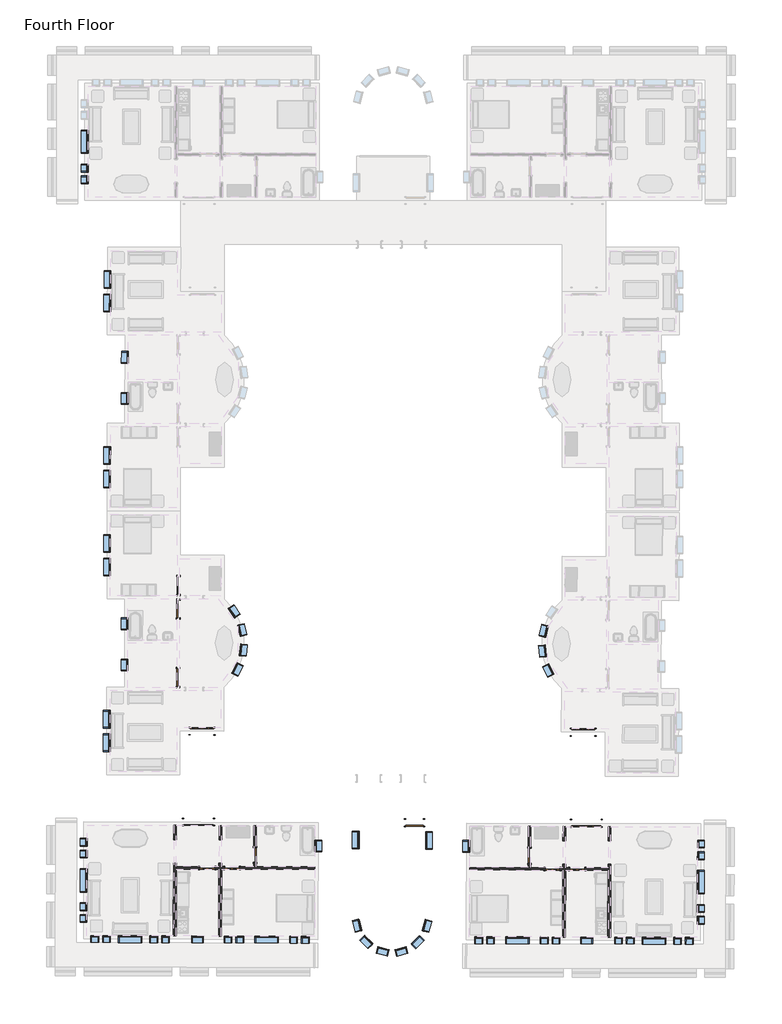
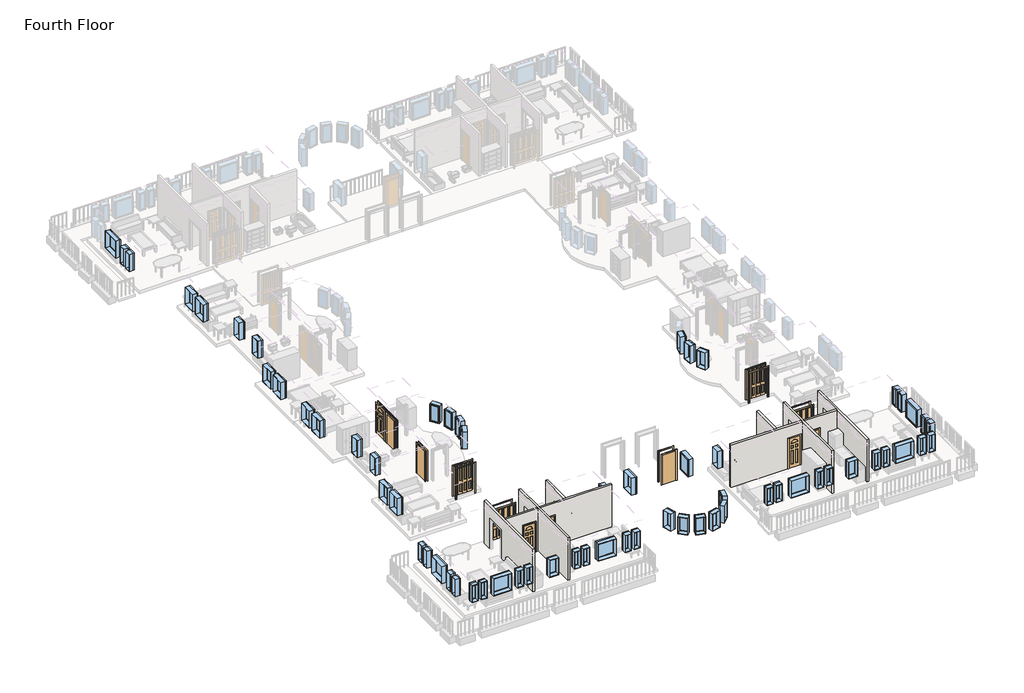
# One storey, part 1 of 8: 64 windows, 14 doors, 8 walls.
"""IFC4 building model written with IfcOpenShell, lengths in millimetres."""

from ifc_helpers import new_model, si_unit, frame, origin, place, context, project, spatial, polyline, outline, extrude, faceted_brep, transform, mapped, element, save
from components import m_bifold_4_panel_1220_x_2134mm_46e1cad3, m_bifold_4_panel_1220_x_2134mm_cde6dea2, m_bifold_4_panel_1525_x_2134mm_1ddae71f, m_bifold_4_panel_1525_x_2134mm_ac598c8b, m_single_decorative_2_0762_x_2134mm_0d0af7cb, m_single_decorative_2_0762_x_2134mm_2fe67c8e, m_single_decorative_2_0915_x_2134mm_0b11df3f, m_single_flush_0762_x_2134mm_0d89e411, m_single_flush_0762_x_2134mm_a28375c7, m_single_flush_0915_x_2134mm_ab9b6334, m_single_flush_0915_x_2134mm_08e0827a, m_single_flush_0915_x_2134mm_70678a7c, m_fixed_0406_x_1220mm_57fee329, m_fixed_0406_x_1220mm_85c28f40, m_fixed_0610_x_1220mm_2c28ef1d, m_fixed_0610_x_1220mm_1ea27827, m_fixed_0915_x_1220mm_bde29121, m_fixed_0915_x_1220mm_2a2509e7, m_fixed_1220_x_1220mm_e08ff7af, m_fixed_1220_x_1220mm_8f5f8ad3

model = new_model("IFC4")

# Units and contexts
model_context = context("Model", 3, world=origin())
ifc_project = project(units=[si_unit("LENGTHUNIT", "METRE", prefix="MILLI")], contexts=[model_context])

# Site, building, storey
site = spatial("IfcSite", under=ifc_project)
building = spatial("IfcBuilding", under=site)
storey = spatial("IfcBuildingStorey", under=building, Name="Fourth Floor", Elevation=9144.0)

# Doors
placement = place(None, origin())
m_bifold_4_panel_1220_x_2134mm_shape = m_bifold_4_panel_1220_x_2134mm_46e1cad3(model_context)
element("IfcDoor", 1, ObjectType="M_Bifold-4 Panel : 1220 x 2134mm", at=placement, inside=storey, context=model_context, shape_type="MappedRepresentation", body=[
    mapped(m_bifold_4_panel_1220_x_2134mm_shape, transform((-9084.0085376, -31158.0124606, 9144.0), x_axis=(0.9999905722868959, -0.0043422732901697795, 0.0), y_axis=(0.0043422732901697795, 0.9999905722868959, 0.0), z_axis=(0.0, 0.0, 1.0))),
])
m_bifold_4_panel_1220_x_2134mm_2_shape = m_bifold_4_panel_1220_x_2134mm_cde6dea2(model_context)
element("IfcDoor", 2, ObjectType="M_Bifold-4 Panel : 1220 x 2134mm", at=placement, inside=storey, context=model_context, shape_type="MappedRepresentation", body=[
    mapped(m_bifold_4_panel_1220_x_2134mm_2_shape, transform((-28896.4341492, -31100.6581424, 9144.0), x_axis=(-0.9999989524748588, 0.0014474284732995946, 0.0), y_axis=(-0.0014474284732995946, -0.9999989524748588, 0.0), z_axis=(0.0, 0.0, 1.0))),
])
m_bifold_4_panel_1525_x_2134mm_shape = m_bifold_4_panel_1525_x_2134mm_1ddae71f(model_context)
element("IfcDoor", 3, ObjectType="M_Bifold-4 Panel : 1525 x 2134mm", at=placement, inside=storey, context=model_context, shape_type="MappedRepresentation", body=[
    mapped(m_bifold_4_panel_1525_x_2134mm_shape, transform((-29084.8596063, -35825.933405, 9144.0), x_axis=(-0.9999958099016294, 0.0028948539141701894, 0.0), y_axis=(-0.0028948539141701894, -0.9999958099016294, 0.0), z_axis=(0.0, 0.0, 1.0))),
])
m_bifold_4_panel_1525_x_2134mm_2_shape = m_bifold_4_panel_1525_x_2134mm_ac598c8b(model_context)
element("IfcDoor", 4, ObjectType="M_Bifold-4 Panel : 1525 x 2134mm", at=placement, inside=storey, context=model_context, shape_type="MappedRepresentation", body=[
    mapped(m_bifold_4_panel_1525_x_2134mm_2_shape, transform((-8922.9440871, -35884.2994497, 9144.0), x_axis=(0.9999958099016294, -0.0028948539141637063, 0.0), y_axis=(0.0028948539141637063, 0.9999958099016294, 0.0), z_axis=(0.0, 0.0, 1.0))),
])
m_single_decorative_2_0762_x_2134mm_shape = m_single_decorative_2_0762_x_2134mm_0d0af7cb(model_context)
element("IfcDoor", 5, ObjectType="M_Single-Decorative 2 : 0762 x 2134mm", at=placement, inside=storey, context=model_context, shape_type="MappedRepresentation", body=[
    mapped(m_single_decorative_2_0762_x_2134mm_shape, transform((-10682.8170859, -38255.9648119, 9144.0), x_axis=(0.9999958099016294, -0.002894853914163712, 0.0), y_axis=(0.002894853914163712, 0.9999958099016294, 0.0), z_axis=(0.0, 0.0, 1.0))),
])
element("IfcDoor", 6, ObjectType="M_Single-Decorative 2 : 0762 x 2134mm", at=placement, inside=storey, context=model_context, shape_type="MappedRepresentation", body=[
    mapped(m_single_decorative_2_0762_x_2134mm_shape, transform((-28625.491904, -38204.0231719, 9144.0), x_axis=(0.9999958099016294, -0.0028948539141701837, 0.0), y_axis=(0.0028948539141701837, 0.9999958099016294, 0.0), z_axis=(0.0, 0.0, 1.0))),
])
m_single_decorative_2_0762_x_2134mm_2_shape = m_single_decorative_2_0762_x_2134mm_2fe67c8e(model_context)
element("IfcDoor", 7, ObjectType="M_Single-Decorative 2 : 0762 x 2134mm", at=placement, inside=storey, context=model_context, shape_type="MappedRepresentation", body=[
    mapped(m_single_decorative_2_0762_x_2134mm_2_shape, transform((-9396.0724775, -38259.6897652, 9144.0), x_axis=(-0.9999958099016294, 0.002894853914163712, 0.0), y_axis=(-0.002894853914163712, -0.9999958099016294, 0.0), z_axis=(0.0, 0.0, 1.0))),
])
element("IfcDoor", 8, ObjectType="M_Single-Decorative 2 : 0762 x 2134mm", at=placement, inside=storey, context=model_context, shape_type="MappedRepresentation", body=[
    mapped(m_single_decorative_2_0762_x_2134mm_2_shape, transform((-27338.7472956, -38207.7481251, 9144.0), x_axis=(-0.9999958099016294, 0.0028948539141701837, 0.0), y_axis=(-0.0028948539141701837, -0.9999958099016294, 0.0), z_axis=(0.0, 0.0, 1.0))),
])
m_single_decorative_2_0915_x_2134mm_shape = m_single_decorative_2_0915_x_2134mm_0b11df3f(model_context)
element("IfcDoor", 9, ObjectType="M_Single-Decorative 2 : 0915 x 2134mm", at=placement, inside=storey, context=model_context, shape_type="MappedRepresentation", body=[
    mapped(m_single_decorative_2_0915_x_2134mm_shape, transform((-30128.4841363, -23534.6169126, 9144.0), x_axis=(-0.0014474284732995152, -0.9999989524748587, 0.0), y_axis=(0.9999989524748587, -0.0014474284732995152, 0.0), z_axis=(0.0, 0.0, 1.0))),
])
m_single_flush_0762_x_2134mm_shape = m_single_flush_0762_x_2134mm_0d89e411(model_context)
element("IfcDoor", 10, ObjectType="M_Single-Flush : 0762 x 2134mm", at=placement, inside=storey, context=model_context, shape_type="MappedRepresentation", body=[
    mapped(m_single_flush_0762_x_2134mm_shape, transform((-26146.2902967, -37533.4472886, 9144.0), x_axis=(-0.0028948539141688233, -0.9999958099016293, 0.0), y_axis=(0.9999958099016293, -0.0028948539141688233, 0.0), z_axis=(0.0, 0.0, 1.0))),
])
m_single_flush_0762_x_2134mm_2_shape = m_single_flush_0762_x_2134mm_a28375c7(model_context)
element("IfcDoor", 11, ObjectType="M_Single-Flush : 0762 x 2134mm", at=placement, inside=storey, context=model_context, shape_type="MappedRepresentation", body=[
    mapped(m_single_flush_0762_x_2134mm_2_shape, transform((-11871.3501103, -37574.7713282, 9144.0), x_axis=(-0.002894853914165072, -0.9999958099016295, 0.0), y_axis=(0.9999958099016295, -0.002894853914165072, 0.0), z_axis=(0.0, 0.0, 1.0))),
])
m_single_flush_0915_x_2134mm_shape = m_single_flush_0915_x_2134mm_ab9b6334(model_context)
element("IfcDoor", 12, ObjectType="M_Single-Flush : 0915 x 2134mm", at=placement, inside=storey, context=model_context, shape_type="MappedRepresentation", body=[
    mapped(m_single_flush_0915_x_2134mm_shape, transform((-30135.3858371, -28302.8619177, 9144.0), x_axis=(-0.0014474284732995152, -0.9999989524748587, 0.0), y_axis=(0.9999989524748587, -0.0014474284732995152, 0.0), z_axis=(0.0, 0.0, 1.0))),
])
m_single_flush_0915_x_2134mm_2_shape = m_single_flush_0915_x_2134mm_08e0827a(model_context)
element("IfcDoor", 13, ObjectType="M_Single-Flush : 0915 x 2134mm", at=placement, inside=storey, context=model_context, shape_type="MappedRepresentation", body=[
    mapped(m_single_flush_0915_x_2134mm_2_shape, transform((-30130.249999, -24754.6156346, 9144.0), x_axis=(0.0014474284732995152, 0.9999989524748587, 0.0), y_axis=(-0.9999989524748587, 0.0014474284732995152, 0.0), z_axis=(0.0, 0.0, 1.0))),
])
m_single_flush_0915_x_2134mm_3_shape = m_single_flush_0915_x_2134mm_70678a7c(model_context)
element("IfcDoor", 14, ObjectType="M_Single-Flush : 0915 x 2134mm", at=placement, inside=storey, context=model_context, shape_type="MappedRepresentation", body=[
    mapped(m_single_flush_0915_x_2134mm_3_shape, transform((-17860.906636, -35858.4252454, 9144.0), x_axis=(0.9999958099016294, -0.0028948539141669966, 0.0), y_axis=(0.0028948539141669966, 0.9999958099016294, 0.0), z_axis=(0.0, 0.0, 1.0))),
])

# Walls
element("IfcWall", 15, ObjectType="Interior - 135mm Partition (2-hr)", at=placement, inside=storey, context=model_context, shape_type="Brep", body=[
    faceted_brep([(-7661.5898742, -41808.9757108, 9144.0), (-7650.6270624, -38021.9915787, 9144.0), (-7650.6270624, -38021.9915787, 11278.0), (-7647.0953406, -36801.9966906, 11278.0), (-7647.0953406, -36801.9966906, 9144.0), (-7644.9560436, -36062.9997871, 9144.0), (-7644.9560436, -36062.9997871, 12192.0), (-7661.5898742, -41808.9757108, 12192.0), (-7786.1264946, -38021.599326, 11278.0), (-7786.1264946, -38021.599326, 9144.0), (-7786.6330941, -38196.5985928, 9144.0), (-7787.0253468, -38332.098025, 9144.0), (-7797.0893064, -41808.5834581, 9144.0), (-7797.0893064, -41808.5834581, 12192.0), (-7787.0253468, -38332.098025, 12192.0), (-7786.6330941, -38196.5985928, 12192.0), (-7780.4554758, -36062.6075344, 12192.0), (-7780.4554758, -36062.6075344, 9144.0), (-7782.5947729, -36801.6044379, 9144.0), (-7782.5947729, -36801.6044379, 11278.0)], [[[0, 1, 2, 3, 4, 5, 6, 7]], [[8, 9, 10, 11, 12, 13, 14, 15, 16, 17, 18, 19]], [[18, 17, 5, 4]], [[12, 11, 10, 9, 1, 0]], [[7, 6, 16, 15, 14, 13]], [[4, 3, 19, 18]], [[2, 1, 9, 8]], [[3, 2, 8, 19]], [[6, 5, 17, 16]], [[0, 7, 13, 12]]]),
])
element("IfcWall", 16, ObjectType="Interior - 135mm Partition (2-hr)", at=placement, inside=storey, context=model_context, shape_type="Brep", body=[
    faceted_brep([(-10000.8354782, -36795.1829282, 11278.0), (-10000.8354782, -36795.1829282, 9144.0), (-9998.6961811, -36056.1860247, 9144.0), (-9998.6961811, -36056.1860247, 12192.0), (-10004.8737994, -38190.1770831, 12192.0), (-10005.2660521, -38325.6765153, 12192.0), (-10015.3300117, -41802.1619484, 12192.0), (-10015.3300117, -41802.1619484, 9144.0), (-10005.2660521, -38325.6765153, 9144.0), (-10004.8737994, -38190.1770831, 9144.0), (-10004.3671999, -38015.1778163, 9144.0), (-10004.3671999, -38015.1778163, 11278.0), (-10134.1956134, -36055.793772, 9144.0), (-10136.3349104, -36794.7906755, 9144.0), (-10136.3349104, -36794.7906755, 11278.0), (-10139.8666322, -38014.7855636, 11278.0), (-10139.8666322, -38014.7855636, 9144.0), (-10140.3732316, -38189.7848304, 9144.0), (-10140.7654843, -38325.2842626, 9144.0), (-10150.829444, -41801.7696957, 9144.0), (-10150.829444, -41801.7696957, 12192.0), (-10140.7654843, -38325.2842626, 12192.0), (-10140.3732316, -38189.7848304, 12192.0), (-10134.1956134, -36055.793772, 12192.0)], [[[0, 1, 2, 3, 4, 5, 6, 7, 8, 9, 10, 11]], [[12, 13, 14, 15, 16, 17, 18, 19, 20, 21, 22, 23]], [[2, 1, 13, 12]], [[10, 9, 8, 7, 19, 18, 17, 16]], [[6, 5, 4, 3, 23, 22, 21, 20]], [[16, 15, 11, 10]], [[14, 13, 1, 0]], [[15, 14, 0, 11]], [[3, 2, 12, 23]], [[7, 6, 20, 19]]]),
])
element("IfcWall", 17, ObjectType="Interior - 135mm Partition (2-hr)", at=placement, inside=storey, context=model_context, shape_type="Brep", body=[
    faceted_brep([(-9777.2670074, -38326.336542, 9144.0), (-9777.2670074, -38326.336542, 11278.0), (-9015.2702003, -38328.5424207, 11278.0), (-9015.2702003, -38328.5424207, 9144.0), (-7787.0253468, -38332.098025, 9144.0), (-7787.0253468, -38332.098025, 12192.0), (-10005.2660521, -38325.6765153, 12192.0), (-10005.2660521, -38325.6765153, 9144.0), (-9776.8747547, -38190.8371097, 11278.0), (-9776.8747547, -38190.8371097, 9144.0), (-10004.8737994, -38190.1770831, 9144.0), (-10004.8737994, -38190.1770831, 12192.0), (-7786.6330941, -38196.5985928, 12192.0), (-7786.6330941, -38196.5985928, 9144.0), (-9014.8779476, -38193.0429884, 9144.0), (-9014.8779476, -38193.0429884, 11278.0)], [[[0, 1, 2, 3, 4, 5, 6, 7]], [[8, 9, 10, 11, 12, 13, 14, 15]], [[9, 0, 7, 10]], [[3, 14, 13, 4]], [[5, 12, 11, 6]], [[1, 0, 9, 8]], [[2, 1, 8, 15]], [[3, 2, 15, 14]], [[5, 4, 13, 12]], [[7, 6, 11, 10]]]),
    faceted_brep([(-10302.0148087, -38324.8174674, 11278.0), (-10302.0148087, -38324.8174674, 9144.0), (-10140.7654843, -38325.2842626, 9144.0), (-10140.7654843, -38325.2842626, 12192.0), (-14989.2451686, -38311.2485634, 12192.0), (-14989.2451686, -38311.2485634, 9144.0), (-11064.0116158, -38322.6115887, 9144.0), (-11064.0116158, -38322.6115887, 11278.0), (-10301.622556, -38189.3180352, 9144.0), (-10301.622556, -38189.3180352, 11278.0), (-11063.6193631, -38187.1121565, 11278.0), (-11063.6193631, -38187.1121565, 9144.0), (-11805.3662551, -38184.9648986, 9144.0), (-11940.8656874, -38184.5726459, 9144.0), (-14988.8529159, -38175.7491311, 9144.0), (-14988.8529159, -38175.7491311, 12192.0), (-11940.8656874, -38184.5726459, 12192.0), (-11805.3662551, -38184.9648986, 12192.0), (-10140.3732316, -38189.7848304, 12192.0), (-10140.3732316, -38189.7848304, 9144.0)], [[[0, 1, 2, 3, 4, 5, 6, 7]], [[8, 9, 10, 11, 12, 13, 14, 15, 16, 17, 18, 19]], [[1, 8, 19, 2]], [[11, 6, 5, 14, 13, 12]], [[15, 4, 3, 18, 17, 16]], [[9, 8, 1, 0]], [[10, 9, 0, 7]], [[11, 10, 7, 6]], [[5, 4, 15, 14]], [[3, 2, 19, 18]]]),
])
element("IfcWall", 18, ObjectType="Interior - 135mm Partition (2-hr)", at=placement, inside=storey, context=model_context, shape_type="SweptSolid", body=[
    extrude(outline(polyline([(-2309.0, 0.0), (-2080.0, 0.0), (-2080.0, -2134.0), (-1318.0, -2134.0), (-1318.0, 0.0), (-175.0000001, 0.0), (-175.0000001, -3048.0), (-2309.0, -3048.0), (-2309.0, 0.0)])), frame((-11798.6820374, -35875.9745735, 9144.0), z_axis=(-0.9999958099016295, 0.002894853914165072, 0.0), x_axis=(0.002894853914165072, 0.9999958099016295, 0.0)), (0.0, 0.0, 1.0), 135.5),
])
element("IfcWall", 19, ObjectType="Interior - 135mm Partition (2-hr)", at=placement, inside=storey, context=model_context, shape_type="Brep", body=[
    faceted_brep([(-30244.9952471, -41743.5997775, 9144.0), (-30234.9312874, -38267.1143443, 9144.0), (-30234.5390347, -38131.6149121, 9144.0), (-30234.0324353, -37956.6156454, 9144.0), (-30234.0324353, -37956.6156454, 11278.0), (-30230.5007135, -36736.6207573, 11278.0), (-30230.5007135, -36736.6207573, 9144.0), (-30228.3614165, -35997.6238538, 9144.0), (-30228.3614165, -35997.6238538, 12192.0), (-30234.5390347, -38131.6149121, 12192.0), (-30234.9312874, -38267.1143443, 12192.0), (-30244.9952471, -41743.5997775, 12192.0), (-30369.5318675, -37956.2233926, 11278.0), (-30369.5318675, -37956.2233926, 9144.0), (-30380.4946793, -41743.2075247, 9144.0), (-30380.4946793, -41743.2075247, 12192.0), (-30363.8608487, -35997.2316011, 12192.0), (-30363.8608487, -35997.2316011, 9144.0), (-30366.0001458, -36736.2285046, 9144.0), (-30366.0001458, -36736.2285046, 11278.0)], [[[0, 1, 2, 3, 4, 5, 6, 7, 8, 9, 10, 11]], [[12, 13, 14, 15, 16, 17, 18, 19]], [[18, 17, 7, 6]], [[14, 13, 3, 2, 1, 0]], [[11, 10, 9, 8, 16, 15]], [[6, 5, 19, 18]], [[4, 3, 13, 12]], [[5, 4, 12, 19]], [[0, 11, 15, 14]], [[8, 7, 17, 16]]]),
])
element("IfcWall", 20, ObjectType="Interior - 135mm Partition (2-hr)", at=placement, inside=storey, context=model_context, shape_type="Brep", body=[
    faceted_brep([(-27876.760576, -36743.4345197, 11278.0), (-27876.760576, -36743.4345197, 9144.0), (-27874.6212789, -36004.4376162, 9144.0), (-27874.6212789, -36004.4376162, 12192.0), (-27880.7988972, -38138.4286745, 12192.0), (-27881.1911499, -38273.9281067, 12192.0), (-27891.2551095, -41750.4135399, 12192.0), (-27891.2551095, -41750.4135399, 9144.0), (-27881.1911499, -38273.9281067, 9144.0), (-27880.7988972, -38138.4286745, 9144.0), (-27880.2922977, -37963.4294078, 9144.0), (-27880.2922977, -37963.4294078, 11278.0), (-28010.1207112, -36004.0453635, 9144.0), (-28012.2600082, -36743.042267, 9144.0), (-28012.2600082, -36743.042267, 11278.0), (-28015.79173, -37963.037155, 11278.0), (-28015.79173, -37963.037155, 9144.0), (-28016.2983294, -38138.0364218, 9144.0), (-28016.6905821, -38273.535854, 9144.0), (-28026.7545418, -41750.0212871, 9144.0), (-28026.7545418, -41750.0212871, 12192.0), (-28016.6905821, -38273.535854, 12192.0), (-28016.2983294, -38138.0364218, 12192.0), (-28010.1207112, -36004.0453635, 12192.0)], [[[0, 1, 2, 3, 4, 5, 6, 7, 8, 9, 10, 11]], [[12, 13, 14, 15, 16, 17, 18, 19, 20, 21, 22, 23]], [[2, 1, 13, 12]], [[10, 9, 8, 7, 19, 18, 17, 16]], [[6, 5, 4, 3, 23, 22, 21, 20]], [[16, 15, 11, 10]], [[14, 13, 1, 0]], [[15, 14, 0, 11]], [[7, 6, 20, 19]], [[3, 2, 12, 23]]]),
])
element("IfcWall", 21, ObjectType="Interior - 135mm Partition (2-hr)", at=placement, inside=storey, context=model_context, shape_type="Brep", body=[
    faceted_brep([(-30234.5390347, -38131.6149121, 9144.0), (-30234.5390347, -38131.6149121, 12192.0), (-28016.2983294, -38138.0364218, 12192.0), (-28016.2983294, -38138.0364218, 9144.0), (-28244.2973741, -38137.3763951, 9144.0), (-28244.2973741, -38137.3763951, 11278.0), (-29006.2941812, -38135.1705164, 11278.0), (-29006.2941812, -38135.1705164, 9144.0), (-30234.9312874, -38267.1143443, 12192.0), (-30234.9312874, -38267.1143443, 9144.0), (-29006.6864339, -38270.6699486, 9144.0), (-29006.6864339, -38270.6699486, 11278.0), (-28244.6896268, -38272.8758273, 11278.0), (-28244.6896268, -38272.8758273, 9144.0), (-28016.6905821, -38273.535854, 9144.0), (-28016.6905821, -38273.535854, 12192.0)], [[[0, 1, 2, 3, 4, 5, 6, 7]], [[8, 9, 10, 11, 12, 13, 14, 15]], [[9, 0, 7, 10]], [[13, 4, 3, 14]], [[1, 8, 15, 2]], [[1, 0, 9, 8]], [[3, 2, 15, 14]], [[5, 4, 13, 12]], [[6, 5, 12, 11]], [[7, 6, 11, 10]]]),
    faceted_brep([(-27719.5495728, -38138.8954697, 11278.0), (-27719.5495728, -38138.8954697, 9144.0), (-27880.7988972, -38138.4286745, 9144.0), (-27880.7988972, -38138.4286745, 12192.0), (-26215.8058737, -38143.2486063, 12192.0), (-26080.3064415, -38143.640859, 12192.0), (-23032.3192129, -38152.4643737, 12192.0), (-23032.3192129, -38152.4643737, 9144.0), (-26080.3064415, -38143.640859, 9144.0), (-26215.8058737, -38143.2486063, 9144.0), (-26957.5527657, -38141.1013484, 9144.0), (-26957.5527657, -38141.1013484, 11278.0), (-27719.9418255, -38274.3949019, 9144.0), (-27719.9418255, -38274.3949019, 11278.0), (-26957.9450184, -38276.6007806, 11278.0), (-26957.9450184, -38276.6007806, 9144.0), (-23032.7114656, -38287.9638059, 9144.0), (-23032.7114656, -38287.9638059, 12192.0), (-27881.1911499, -38273.9281067, 12192.0), (-27881.1911499, -38273.9281067, 9144.0)], [[[0, 1, 2, 3, 4, 5, 6, 7, 8, 9, 10, 11]], [[12, 13, 14, 15, 16, 17, 18, 19]], [[1, 12, 19, 2]], [[15, 10, 9, 8, 7, 16]], [[17, 6, 5, 4, 3, 18]], [[3, 2, 19, 18]], [[13, 12, 1, 0]], [[14, 13, 0, 11]], [[15, 14, 11, 10]], [[7, 6, 17, 16]]]),
])
element("IfcWall", 22, ObjectType="Interior - 135mm Partition (2-hr)", at=placement, inside=storey, context=model_context, shape_type="SweptSolid", body=[
    extrude(outline(polyline([(-2309.0, 0.0), (-2080.0, 0.0), (-2080.0, -2134.0), (-1317.9999999, -2134.0), (-1317.9999999, 0.0), (-175.0, 0.0), (-175.0, -3048.0), (-2309.0, -3048.0), (-2309.0, 0.0)])), frame((-26073.6222238, -35834.6505339, 9144.0), z_axis=(-0.9999958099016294, 0.0028948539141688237, 0.0), x_axis=(0.0028948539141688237, 0.9999958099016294, 0.0)), (0.0, 0.0, 1.0), 135.5),
])

# Windows
m_fixed_0406_x_1220mm_shape = m_fixed_0406_x_1220mm_57fee329(model_context)
element("IfcWindow", 23, ObjectType="M_Fixed : 0406 x 1220mm", at=placement, inside=storey, context=model_context, shape_type="MappedRepresentation", body=[
    mapped(m_fixed_0406_x_1220mm_shape, transform((-35008.8416203, -2447.8811614, 9144.0), x_axis=(0.0, -1.0, 0.0), y_axis=(1.0, 0.0, 0.0), z_axis=(0.0, 0.0, 1.0))),
])
element("IfcWindow", 24, ObjectType="M_Fixed : 0406 x 1220mm", at=placement, inside=storey, context=model_context, shape_type="MappedRepresentation", body=[
    mapped(m_fixed_0406_x_1220mm_shape, transform((-35008.8416203, -1837.8811614, 9144.0), x_axis=(0.0, -1.0, 0.0), y_axis=(1.0, 0.0, 0.0), z_axis=(0.0, 0.0, 1.0))),
])
element("IfcWindow", 25, ObjectType="M_Fixed : 0406 x 1220mm", at=placement, inside=storey, context=model_context, shape_type="MappedRepresentation", body=[
    mapped(m_fixed_0406_x_1220mm_shape, transform((-10500.8722121, -41988.7571565, 9144.0), x_axis=(0.9999958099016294, -0.002894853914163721, 0.0), y_axis=(0.002894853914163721, 0.9999958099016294, 0.0), z_axis=(0.0, 0.0, 1.0))),
])
element("IfcWindow", 26, ObjectType="M_Fixed : 0406 x 1220mm", at=placement, inside=storey, context=model_context, shape_type="MappedRepresentation", body=[
    mapped(m_fixed_0406_x_1220mm_shape, transform((-11110.8696561, -41986.9912956, 9144.0), x_axis=(0.9999958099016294, -0.002894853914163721, 0.0), y_axis=(0.002894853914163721, 0.9999958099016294, 0.0), z_axis=(0.0, 0.0, 1.0))),
])
element("IfcWindow", 27, ObjectType="M_Fixed : 0406 x 1220mm", at=placement, inside=storey, context=model_context, shape_type="MappedRepresentation", body=[
    mapped(m_fixed_0406_x_1220mm_shape, transform((-3572.1512442, -42008.8148756, 9144.0), x_axis=(0.9999958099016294, -0.002894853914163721, 0.0), y_axis=(0.002894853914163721, 0.9999958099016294, 0.0), z_axis=(0.0, 0.0, 1.0))),
])
element("IfcWindow", 28, ObjectType="M_Fixed : 0406 x 1220mm", at=placement, inside=storey, context=model_context, shape_type="MappedRepresentation", body=[
    mapped(m_fixed_0406_x_1220mm_shape, transform((-4182.1486882, -42007.0490147, 9144.0), x_axis=(0.9999958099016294, -0.002894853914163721, 0.0), y_axis=(0.002894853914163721, 0.9999958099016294, 0.0), z_axis=(0.0, 0.0, 1.0))),
])
element("IfcWindow", 29, ObjectType="M_Fixed : 0406 x 1220mm", at=placement, inside=storey, context=model_context, shape_type="MappedRepresentation", body=[
    mapped(m_fixed_0406_x_1220mm_shape, transform((-2955.3079143, -36968.5794278, 9144.0), x_axis=(0.0028948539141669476, 0.9999958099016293, 0.0), y_axis=(-0.9999958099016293, 0.0028948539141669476, 0.0), z_axis=(0.0, 0.0, 1.0))),
])
element("IfcWindow", 30, ObjectType="M_Fixed : 0406 x 1220mm", at=placement, inside=storey, context=model_context, shape_type="MappedRepresentation", body=[
    mapped(m_fixed_0406_x_1220mm_shape, transform((-2957.0737751, -37578.5768719, 9144.0), x_axis=(0.0028948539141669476, 0.9999958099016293, 0.0), y_axis=(-0.9999958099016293, 0.0028948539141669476, 0.0), z_axis=(0.0, 0.0, 1.0))),
])
element("IfcWindow", 31, ObjectType="M_Fixed : 0406 x 1220mm", at=placement, inside=storey, context=model_context, shape_type="MappedRepresentation", body=[
    mapped(m_fixed_0406_x_1220mm_shape, transform((-23528.3176256, -41951.0444472, 9144.0), x_axis=(0.9999958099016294, -0.0028948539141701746, 0.0), y_axis=(0.0028948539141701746, 0.9999958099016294, 0.0), z_axis=(0.0, 0.0, 1.0))),
])
element("IfcWindow", 32, ObjectType="M_Fixed : 0406 x 1220mm", at=placement, inside=storey, context=model_context, shape_type="MappedRepresentation", body=[
    mapped(m_fixed_0406_x_1220mm_shape, transform((-24138.3150696, -41949.2785863, 9144.0), x_axis=(0.9999958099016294, -0.0028948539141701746, 0.0), y_axis=(0.0028948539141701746, 0.9999958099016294, 0.0), z_axis=(0.0, 0.0, 1.0))),
])
element("IfcWindow", 33, ObjectType="M_Fixed : 0406 x 1220mm", at=placement, inside=storey, context=model_context, shape_type="MappedRepresentation", body=[
    mapped(m_fixed_0406_x_1220mm_shape, transform((-30795.2871761, -41930.0075438, 9144.0), x_axis=(0.9999958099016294, -0.0028948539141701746, 0.0), y_axis=(0.0028948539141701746, 0.9999958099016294, 0.0), z_axis=(0.0, 0.0, 1.0))),
])
element("IfcWindow", 34, ObjectType="M_Fixed : 0406 x 1220mm", at=placement, inside=storey, context=model_context, shape_type="MappedRepresentation", body=[
    mapped(m_fixed_0406_x_1220mm_shape, transform((-31405.2846201, -41928.2416829, 9144.0), x_axis=(0.9999958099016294, -0.0028948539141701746, 0.0), y_axis=(0.0028948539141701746, 0.9999958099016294, 0.0), z_axis=(0.0, 0.0, 1.0))),
])
element("IfcWindow", 35, ObjectType="M_Fixed : 0406 x 1220mm", at=placement, inside=storey, context=model_context, shape_type="MappedRepresentation", body=[
    mapped(m_fixed_0406_x_1220mm_shape, transform((-35070.1428086, -40837.627884, 9144.0), x_axis=(-0.002894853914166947, -0.9999958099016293, 0.0), y_axis=(0.9999958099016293, -0.002894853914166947, 0.0), z_axis=(0.0, 0.0, 1.0))),
])
element("IfcWindow", 36, ObjectType="M_Fixed : 0406 x 1220mm", at=placement, inside=storey, context=model_context, shape_type="MappedRepresentation", body=[
    mapped(m_fixed_0406_x_1220mm_shape, transform((-35068.3769478, -40227.63044, 9144.0), x_axis=(-0.002894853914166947, -0.9999958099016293, 0.0), y_axis=(0.9999958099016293, -0.002894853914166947, 0.0), z_axis=(0.0, 0.0, 1.0))),
])
m_fixed_0406_x_1220mm_2_shape = m_fixed_0406_x_1220mm_85c28f40(model_context)
element("IfcWindow", 37, ObjectType="M_Fixed : 0406 x 1220mm", at=placement, inside=storey, context=model_context, shape_type="MappedRepresentation", body=[
    mapped(m_fixed_0406_x_1220mm_2_shape, transform((-14514.855393, -41977.1372129, 9144.0), x_axis=(-0.9999958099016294, 0.002894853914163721, 0.0), y_axis=(-0.002894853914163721, -0.9999958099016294, 0.0), z_axis=(0.0, 0.0, 1.0))),
])
element("IfcWindow", 38, ObjectType="M_Fixed : 0406 x 1220mm", at=placement, inside=storey, context=model_context, shape_type="MappedRepresentation", body=[
    mapped(m_fixed_0406_x_1220mm_2_shape, transform((-13904.857949, -41978.9030738, 9144.0), x_axis=(-0.9999958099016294, 0.002894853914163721, 0.0), y_axis=(-0.002894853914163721, -0.9999958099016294, 0.0), z_axis=(0.0, 0.0, 1.0))),
])
element("IfcWindow", 39, ObjectType="M_Fixed : 0406 x 1220mm", at=placement, inside=storey, context=model_context, shape_type="MappedRepresentation", body=[
    mapped(m_fixed_0406_x_1220mm_2_shape, transform((-7247.8858424, -41998.1741163, 9144.0), x_axis=(-0.9999958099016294, 0.002894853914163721, 0.0), y_axis=(-0.002894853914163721, -0.9999958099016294, 0.0), z_axis=(0.0, 0.0, 1.0))),
])
element("IfcWindow", 40, ObjectType="M_Fixed : 0406 x 1220mm", at=placement, inside=storey, context=model_context, shape_type="MappedRepresentation", body=[
    mapped(m_fixed_0406_x_1220mm_2_shape, transform((-6637.8883984, -41999.9399772, 9144.0), x_axis=(-0.9999958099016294, 0.002894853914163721, 0.0), y_axis=(-0.002894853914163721, -0.9999958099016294, 0.0), z_axis=(0.0, 0.0, 1.0))),
])
element("IfcWindow", 41, ObjectType="M_Fixed : 0406 x 1220mm", at=placement, inside=storey, context=model_context, shape_type="MappedRepresentation", body=[
    mapped(m_fixed_0406_x_1220mm_2_shape, transform((-2966.7773255, -40930.5628267, 9144.0), x_axis=(-0.0028948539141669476, -0.9999958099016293, 0.0), y_axis=(0.9999958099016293, -0.0028948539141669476, 0.0), z_axis=(0.0, 0.0, 1.0))),
])
element("IfcWindow", 42, ObjectType="M_Fixed : 0406 x 1220mm", at=placement, inside=storey, context=model_context, shape_type="MappedRepresentation", body=[
    mapped(m_fixed_0406_x_1220mm_2_shape, transform((-2965.0114646, -40320.5653826, 9144.0), x_axis=(-0.0028948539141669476, -0.9999958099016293, 0.0), y_axis=(0.9999958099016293, -0.0028948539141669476, 0.0), z_axis=(0.0, 0.0, 1.0))),
])
element("IfcWindow", 43, ObjectType="M_Fixed : 0406 x 1220mm", at=placement, inside=storey, context=model_context, shape_type="MappedRepresentation", body=[
    mapped(m_fixed_0406_x_1220mm_2_shape, transform((-27542.3008065, -41939.4245036, 9144.0), x_axis=(-0.9999958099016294, 0.0028948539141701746, 0.0), y_axis=(-0.0028948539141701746, -0.9999958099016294, 0.0), z_axis=(0.0, 0.0, 1.0))),
])
element("IfcWindow", 44, ObjectType="M_Fixed : 0406 x 1220mm", at=placement, inside=storey, context=model_context, shape_type="MappedRepresentation", body=[
    mapped(m_fixed_0406_x_1220mm_2_shape, transform((-26932.3033625, -41941.1903644, 9144.0), x_axis=(-0.9999958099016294, 0.0028948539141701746, 0.0), y_axis=(-0.0028948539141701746, -0.9999958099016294, 0.0), z_axis=(0.0, 0.0, 1.0))),
])
element("IfcWindow", 45, ObjectType="M_Fixed : 0406 x 1220mm", at=placement, inside=storey, context=model_context, shape_type="MappedRepresentation", body=[
    mapped(m_fixed_0406_x_1220mm_2_shape, transform((-34471.0217744, -41919.3667845, 9144.0), x_axis=(-0.9999958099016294, 0.0028948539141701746, 0.0), y_axis=(-0.0028948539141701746, -0.9999958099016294, 0.0), z_axis=(0.0, 0.0, 1.0))),
])
element("IfcWindow", 46, ObjectType="M_Fixed : 0406 x 1220mm", at=placement, inside=storey, context=model_context, shape_type="MappedRepresentation", body=[
    mapped(m_fixed_0406_x_1220mm_2_shape, transform((-33861.0243303, -41921.1326454, 9144.0), x_axis=(-0.9999958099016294, 0.0028948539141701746, 0.0), y_axis=(-0.0028948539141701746, -0.9999958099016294, 0.0), z_axis=(0.0, 0.0, 1.0))),
])
element("IfcWindow", 47, ObjectType="M_Fixed : 0406 x 1220mm", at=placement, inside=storey, context=model_context, shape_type="MappedRepresentation", body=[
    mapped(m_fixed_0406_x_1220mm_2_shape, transform((-35058.6733974, -36875.6444852, 9144.0), x_axis=(0.002894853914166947, 0.9999958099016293, 0.0), y_axis=(-0.9999958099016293, 0.002894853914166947, 0.0), z_axis=(0.0, 0.0, 1.0))),
])
element("IfcWindow", 48, ObjectType="M_Fixed : 0406 x 1220mm", at=placement, inside=storey, context=model_context, shape_type="MappedRepresentation", body=[
    mapped(m_fixed_0406_x_1220mm_2_shape, transform((-35060.4392583, -37485.6419292, 9144.0), x_axis=(0.002894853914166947, 0.9999958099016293, 0.0), y_axis=(-0.9999958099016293, 0.002894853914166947, 0.0), z_axis=(0.0, 0.0, 1.0))),
])
m_fixed_0610_x_1220mm_shape = m_fixed_0610_x_1220mm_2c28ef1d(model_context)
element("IfcWindow", 49, ObjectType="M_Fixed : 0610 x 1220mm", at=placement, inside=storey, context=model_context, shape_type="MappedRepresentation", body=[
    mapped(m_fixed_0610_x_1220mm_shape, transform((-32923.0053866, -13805.8618518, 9144.0), x_axis=(-0.0014474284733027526, -0.9999989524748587, 0.0), y_axis=(0.9999989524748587, -0.0014474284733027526, 0.0), z_axis=(0.0, 0.0, 1.0))),
])
element("IfcWindow", 50, ObjectType="M_Fixed : 0610 x 1220mm", at=placement, inside=storey, context=model_context, shape_type="MappedRepresentation", body=[
    mapped(m_fixed_0610_x_1220mm_shape, transform((-32919.9171532, -11672.2640868, 9144.0), x_axis=(-0.0014474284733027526, -0.9999989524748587, 0.0), y_axis=(0.9999989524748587, -0.0014474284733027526, 0.0), z_axis=(0.0, 0.0, 1.0))),
])
element("IfcWindow", 51, ObjectType="M_Fixed : 0610 x 1220mm", at=placement, inside=storey, context=model_context, shape_type="MappedRepresentation", body=[
    mapped(m_fixed_0610_x_1220mm_shape, transform((-17192.9734341, -41226.7827416, 9144.0), x_axis=(0.2616141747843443, 0.9651725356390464, 0.0), y_axis=(-0.9651725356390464, 0.2616141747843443, 0.0), z_axis=(0.0, 0.0, 1.0))),
])
element("IfcWindow", 52, ObjectType="M_Fixed : 0610 x 1220mm", at=placement, inside=storey, context=model_context, shape_type="MappedRepresentation", body=[
    mapped(m_fixed_0610_x_1220mm_shape, transform((-18533.9080335, -42559.9760987, 9144.0), x_axis=(0.9666710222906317, 0.2560217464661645, 0.0), y_axis=(-0.2560217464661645, 0.9666710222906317, 0.0), z_axis=(0.0, 0.0, 1.0))),
])
element("IfcWindow", 53, ObjectType="M_Fixed : 0610 x 1220mm", at=placement, inside=storey, context=model_context, shape_type="MappedRepresentation", body=[
    mapped(m_fixed_0610_x_1220mm_shape, transform((-17684.8266921, -42073.0305917, 9144.0), x_axis=(0.709150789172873, 0.7050568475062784, 0.0), y_axis=(-0.7050568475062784, 0.709150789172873, 0.0), z_axis=(0.0, 0.0, 1.0))),
])
element("IfcWindow", 54, ObjectType="M_Fixed : 0610 x 1220mm", at=placement, inside=storey, context=model_context, shape_type="MappedRepresentation", body=[
    mapped(m_fixed_0610_x_1220mm_shape, transform((-11153.2313288, -25885.3058303, 9144.0), x_axis=(-0.23139418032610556, -0.9728600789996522, 0.0), y_axis=(0.9728600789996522, -0.23139418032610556, 0.0), z_axis=(0.0, 0.0, 1.0))),
])
element("IfcWindow", 55, ObjectType="M_Fixed : 0610 x 1220mm", at=placement, inside=storey, context=model_context, shape_type="MappedRepresentation", body=[
    mapped(m_fixed_0610_x_1220mm_shape, transform((-29136.4441269, -41934.8096722, 9144.0), x_axis=(0.9999958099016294, -0.0028948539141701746, 0.0), y_axis=(0.0028948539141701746, 0.9999958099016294, 0.0), z_axis=(0.0, 0.0, 1.0))),
])
element("IfcWindow", 56, ObjectType="M_Fixed : 0610 x 1220mm", at=placement, inside=storey, context=model_context, shape_type="MappedRepresentation", body=[
    mapped(m_fixed_0610_x_1220mm_shape, transform((-22841.1675047, -37064.0131692, 9144.0), x_axis=(0.0028948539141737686, 0.9999958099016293, 0.0), y_axis=(-0.9999958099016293, 0.0028948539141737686, 0.0), z_axis=(0.0, 0.0, 1.0))),
])
element("IfcWindow", 57, ObjectType="M_Fixed : 0610 x 1220mm", at=placement, inside=storey, context=model_context, shape_type="MappedRepresentation", body=[
    mapped(m_fixed_0610_x_1220mm_shape, transform((-27047.2502691, -27908.2496385, 9144.0), x_axis=(0.4532525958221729, 0.8913821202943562, 0.0), y_axis=(-0.8913821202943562, 0.4532525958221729, 0.0), z_axis=(0.0, 0.0, 1.0))),
])
element("IfcWindow", 58, ObjectType="M_Fixed : 0610 x 1220mm", at=placement, inside=storey, context=model_context, shape_type="MappedRepresentation", body=[
    mapped(m_fixed_0610_x_1220mm_shape, transform((-26738.7440135, -26896.1747529, 9144.0), x_axis=(0.12104747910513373, 0.9926467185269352, 0.0), y_axis=(-0.9926467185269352, 0.12104747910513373, 0.0), z_axis=(0.0, 0.0, 1.0))),
])
m_fixed_0610_x_1220mm_2_shape = m_fixed_0610_x_1220mm_1ea27827(model_context)
element("IfcWindow", 59, ObjectType="M_Fixed : 0610 x 1220mm", at=placement, inside=storey, context=model_context, shape_type="MappedRepresentation", body=[
    mapped(m_fixed_0610_x_1220mm_2_shape, transform((-8906.7288917, -41993.3719879, 9144.0), x_axis=(-0.9999958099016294, 0.002894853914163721, 0.0), y_axis=(-0.002894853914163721, -0.9999958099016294, 0.0), z_axis=(0.0, 0.0, 1.0))),
])
element("IfcWindow", 60, ObjectType="M_Fixed : 0610 x 1220mm", at=placement, inside=storey, context=model_context, shape_type="MappedRepresentation", body=[
    mapped(m_fixed_0610_x_1220mm_2_shape, transform((-15173.6996323, -37086.2094616, 9144.0), x_axis=(0.0028948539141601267, 0.9999958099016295, 0.0), y_axis=(-0.9999958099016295, 0.0028948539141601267, 0.0), z_axis=(0.0, 0.0, 1.0))),
])
element("IfcWindow", 61, ObjectType="M_Fixed : 0610 x 1220mm", at=placement, inside=storey, context=model_context, shape_type="MappedRepresentation", body=[
    mapped(m_fixed_0610_x_1220mm_2_shape, transform((-20845.9001557, -41216.208008, 9144.0), x_axis=(-0.25602174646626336, 0.9666710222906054, 0.0), y_axis=(-0.9666710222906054, -0.25602174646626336, 0.0), z_axis=(0.0, 0.0, 1.0))),
])
element("IfcWindow", 62, ObjectType="M_Fixed : 0610 x 1220mm", at=placement, inside=storey, context=model_context, shape_type="MappedRepresentation", body=[
    mapped(m_fixed_0610_x_1220mm_2_shape, transform((-19512.7067986, -42557.1426074, 9144.0), x_axis=(-0.9651725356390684, 0.26161417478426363, 0.0), y_axis=(-0.26161417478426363, -0.9651725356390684, 0.0), z_axis=(0.0, 0.0, 1.0))),
])
element("IfcWindow", 63, ObjectType="M_Fixed : 0610 x 1220mm", at=placement, inside=storey, context=model_context, shape_type="MappedRepresentation", body=[
    mapped(m_fixed_0610_x_1220mm_2_shape, transform((-20358.9546487, -42065.2893494, 9144.0), x_axis=(-0.7050568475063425, 0.7091507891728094, 0.0), y_axis=(-0.7091507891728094, -0.7050568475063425, 0.0), z_axis=(0.0, 0.0, 1.0))),
])
element("IfcWindow", 64, ObjectType="M_Fixed : 0610 x 1220mm", at=placement, inside=storey, context=model_context, shape_type="MappedRepresentation", body=[
    mapped(m_fixed_0610_x_1220mm_2_shape, transform((-10913.0946738, -27954.1574868, 9144.0), x_axis=(-0.448084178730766, 0.8939913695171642, 0.0), y_axis=(-0.8939913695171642, -0.448084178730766, 0.0), z_axis=(0.0, 0.0, 1.0))),
])
element("IfcWindow", 65, ObjectType="M_Fixed : 0610 x 1220mm", at=placement, inside=storey, context=model_context, shape_type="MappedRepresentation", body=[
    mapped(m_fixed_0610_x_1220mm_2_shape, transform((-11215.5601844, -26940.9029442, 9144.0), x_axis=(-0.11529833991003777, 0.9933309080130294, 0.0), y_axis=(-0.9933309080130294, -0.11529833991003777, 0.0), z_axis=(0.0, 0.0, 1.0))),
])
element("IfcWindow", 66, ObjectType="M_Fixed : 0610 x 1220mm", at=placement, inside=storey, context=model_context, shape_type="MappedRepresentation", body=[
    mapped(m_fixed_0610_x_1220mm_2_shape, transform((-32939.9662087, -25523.749577, 9144.0), x_axis=(0.0014474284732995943, 0.9999989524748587, 0.0), y_axis=(-0.9999989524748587, 0.0014474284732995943, 0.0), z_axis=(0.0, 0.0, 1.0))),
])
element("IfcWindow", 67, ObjectType="M_Fixed : 0610 x 1220mm", at=placement, inside=storey, context=model_context, shape_type="MappedRepresentation", body=[
    mapped(m_fixed_0610_x_1220mm_2_shape, transform((-32943.0544421, -27657.347342, 9144.0), x_axis=(0.0014474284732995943, 0.9999989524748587, 0.0), y_axis=(-0.9999989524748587, 0.0014474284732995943, 0.0), z_axis=(0.0, 0.0, 1.0))),
])
element("IfcWindow", 68, ObjectType="M_Fixed : 0610 x 1220mm", at=placement, inside=storey, context=model_context, shape_type="MappedRepresentation", body=[
    mapped(m_fixed_0610_x_1220mm_2_shape, transform((-27209.2126527, -24866.0217566, 9144.0), x_axis=(0.5453332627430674, -0.8382193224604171, 0.0), y_axis=(0.8382193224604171, 0.5453332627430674, 0.0), z_axis=(0.0, 0.0, 1.0))),
])
element("IfcWindow", 69, ObjectType="M_Fixed : 0610 x 1220mm", at=placement, inside=storey, context=model_context, shape_type="MappedRepresentation", body=[
    mapped(m_fixed_0610_x_1220mm_2_shape, transform((-26794.992959, -25839.6200974, 9144.0), x_axis=(0.225757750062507, -0.974183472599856, 0.0), y_axis=(0.974183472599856, 0.225757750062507, 0.0), z_axis=(0.0, 0.0, 1.0))),
])
m_fixed_0915_x_1220mm_shape = m_fixed_0915_x_1220mm_bde29121(model_context)
element("IfcWindow", 70, ObjectType="M_Fixed : 0915 x 1220mm", at=placement, inside=storey, context=model_context, shape_type="MappedRepresentation", body=[
    mapped(m_fixed_0915_x_1220mm_shape, transform((-33843.4583707, -17987.0839419, 9144.0), x_axis=(-0.0014474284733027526, -0.9999989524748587, 0.0), y_axis=(0.9999989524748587, -0.0014474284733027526, 0.0), z_axis=(0.0, 0.0, 1.0))),
])
element("IfcWindow", 71, ObjectType="M_Fixed : 0915 x 1220mm", at=placement, inside=storey, context=model_context, shape_type="MappedRepresentation", body=[
    mapped(m_fixed_0915_x_1220mm_shape, transform((-33841.6936659, -16767.885219, 9144.0), x_axis=(-0.0014474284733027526, -0.9999989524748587, 0.0), y_axis=(0.9999989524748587, -0.0014474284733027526, 0.0), z_axis=(0.0, 0.0, 1.0))),
])
element("IfcWindow", 72, ObjectType="M_Fixed : 0915 x 1220mm", at=placement, inside=storey, context=model_context, shape_type="MappedRepresentation", body=[
    mapped(m_fixed_0915_x_1220mm_shape, transform((-33830.2230847, -8843.0935205, 9144.0), x_axis=(-0.0014474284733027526, -0.9999989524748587, 0.0), y_axis=(0.9999989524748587, -0.0014474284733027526, 0.0), z_axis=(0.0, 0.0, 1.0))),
])
element("IfcWindow", 73, ObjectType="M_Fixed : 0915 x 1220mm", at=placement, inside=storey, context=model_context, shape_type="MappedRepresentation", body=[
    mapped(m_fixed_0915_x_1220mm_shape, transform((-33828.4583799, -7623.8947976, 9144.0), x_axis=(-0.0014474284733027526, -0.9999989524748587, 0.0), y_axis=(0.9999989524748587, -0.0014474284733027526, 0.0), z_axis=(0.0, 0.0, 1.0))),
])
m_fixed_0915_x_1220mm_2_shape = m_fixed_0915_x_1220mm_2a2509e7(model_context)
element("IfcWindow", 74, ObjectType="M_Fixed : 0915 x 1220mm", at=placement, inside=storey, context=model_context, shape_type="MappedRepresentation", body=[
    mapped(m_fixed_0915_x_1220mm_2_shape, transform((-20924.5426014, -36764.5602636, 9144.0), x_axis=(0.002894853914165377, 0.9999958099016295, 0.0), y_axis=(-0.9999958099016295, 0.002894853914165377, 0.0), z_axis=(0.0, 0.0, 1.0))),
])
element("IfcWindow", 75, ObjectType="M_Fixed : 0915 x 1220mm", at=placement, inside=storey, context=model_context, shape_type="MappedRepresentation", body=[
    mapped(m_fixed_0915_x_1220mm_2_shape, transform((-17088.5586747, -36775.6649232, 9144.0), x_axis=(-0.0028948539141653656, -0.9999958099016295, 0.0), y_axis=(0.9999958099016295, -0.0028948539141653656, 0.0), z_axis=(0.0, 0.0, 1.0))),
])
element("IfcWindow", 76, ObjectType="M_Fixed : 0915 x 1220mm", at=placement, inside=storey, context=model_context, shape_type="MappedRepresentation", body=[
    mapped(m_fixed_0915_x_1220mm_2_shape, transform((-33848.3113088, -21339.8804297, 9144.0), x_axis=(0.0014474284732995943, 0.9999989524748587, 0.0), y_axis=(-0.9999989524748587, 0.0014474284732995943, 0.0), z_axis=(0.0, 0.0, 1.0))),
])
element("IfcWindow", 77, ObjectType="M_Fixed : 0915 x 1220mm", at=placement, inside=storey, context=model_context, shape_type="MappedRepresentation", body=[
    mapped(m_fixed_0915_x_1220mm_2_shape, transform((-33850.0760136, -22559.0791526, 9144.0), x_axis=(0.0014474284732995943, 0.9999989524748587, 0.0), y_axis=(-0.9999989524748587, 0.0014474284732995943, 0.0), z_axis=(0.0, 0.0, 1.0))),
])
element("IfcWindow", 78, ObjectType="M_Fixed : 0915 x 1220mm", at=placement, inside=storey, context=model_context, shape_type="MappedRepresentation", body=[
    mapped(m_fixed_0915_x_1220mm_2_shape, transform((-33861.5465948, -30483.8708512, 9144.0), x_axis=(0.0014474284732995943, 0.9999989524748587, 0.0), y_axis=(-0.9999989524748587, 0.0014474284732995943, 0.0), z_axis=(0.0, 0.0, 1.0))),
])
element("IfcWindow", 79, ObjectType="M_Fixed : 0915 x 1220mm", at=placement, inside=storey, context=model_context, shape_type="MappedRepresentation", body=[
    mapped(m_fixed_0915_x_1220mm_2_shape, transform((-33863.3112996, -31703.069574, 9144.0), x_axis=(0.0014474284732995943, 0.9999989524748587, 0.0), y_axis=(-0.9999989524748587, 0.0014474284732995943, 0.0), z_axis=(0.0, 0.0, 1.0))),
])
m_fixed_1220_x_1220mm_shape = m_fixed_1220_x_1220mm_e08ff7af(model_context)
element("IfcWindow", 80, ObjectType="M_Fixed : 1220 x 1220mm", at=placement, inside=storey, context=model_context, shape_type="MappedRepresentation", body=[
    mapped(m_fixed_1220_x_1220mm_shape, transform((-25535.309216, -41945.2344754, 9144.0), x_axis=(0.9999958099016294, -0.0028948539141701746, 0.0), y_axis=(0.0028948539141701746, 0.9999958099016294, 0.0), z_axis=(0.0, 0.0, 1.0))),
])
element("IfcWindow", 81, ObjectType="M_Fixed : 1220 x 1220mm", at=placement, inside=storey, context=model_context, shape_type="MappedRepresentation", body=[
    mapped(m_fixed_1220_x_1220mm_shape, transform((-32633.1544752, -41924.6871641, 9144.0), x_axis=(0.9999958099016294, -0.0028948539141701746, 0.0), y_axis=(0.0028948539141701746, 0.9999958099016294, 0.0), z_axis=(0.0, 0.0, 1.0))),
])
element("IfcWindow", 82, ObjectType="M_Fixed : 1220 x 1220mm", at=placement, inside=storey, context=model_context, shape_type="MappedRepresentation", body=[
    mapped(m_fixed_1220_x_1220mm_shape, transform((-35064.408103, -38856.6361846, 9144.0), x_axis=(-0.002894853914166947, -0.9999958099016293, 0.0), y_axis=(0.9999958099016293, -0.002894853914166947, 0.0), z_axis=(0.0, 0.0, 1.0))),
])
m_fixed_1220_x_1220mm_2_shape = m_fixed_1220_x_1220mm_8f5f8ad3(model_context)
element("IfcWindow", 83, ObjectType="M_Fixed : 1220 x 1220mm", at=placement, inside=storey, context=model_context, shape_type="MappedRepresentation", body=[
    mapped(m_fixed_1220_x_1220mm_2_shape, transform((-35008.8416203, -466.8811614, 9144.0), x_axis=(0.0, 1.0, 0.0), y_axis=(-1.0, 0.0, 0.0), z_axis=(0.0, 0.0, 1.0))),
])
element("IfcWindow", 84, ObjectType="M_Fixed : 1220 x 1220mm", at=placement, inside=storey, context=model_context, shape_type="MappedRepresentation", body=[
    mapped(m_fixed_1220_x_1220mm_2_shape, transform((-12507.8638025, -41982.9471847, 9144.0), x_axis=(-0.9999958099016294, 0.002894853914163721, 0.0), y_axis=(-0.002894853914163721, -0.9999958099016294, 0.0), z_axis=(0.0, 0.0, 1.0))),
])
element("IfcWindow", 85, ObjectType="M_Fixed : 1220 x 1220mm", at=placement, inside=storey, context=model_context, shape_type="MappedRepresentation", body=[
    mapped(m_fixed_1220_x_1220mm_2_shape, transform((-5410.0185433, -42003.494496, 9144.0), x_axis=(-0.9999958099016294, 0.002894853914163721, 0.0), y_axis=(-0.002894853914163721, -0.9999958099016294, 0.0), z_axis=(0.0, 0.0, 1.0))),
])
element("IfcWindow", 86, ObjectType="M_Fixed : 1220 x 1220mm", at=placement, inside=storey, context=model_context, shape_type="MappedRepresentation", body=[
    mapped(m_fixed_1220_x_1220mm_2_shape, transform((-2961.0426199, -38949.5711273, 9144.0), x_axis=(-0.0028948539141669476, -0.9999958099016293, 0.0), y_axis=(0.9999958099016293, -0.0028948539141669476, 0.0), z_axis=(0.0, 0.0, 1.0))),
])

save(model, "model.ifc")
